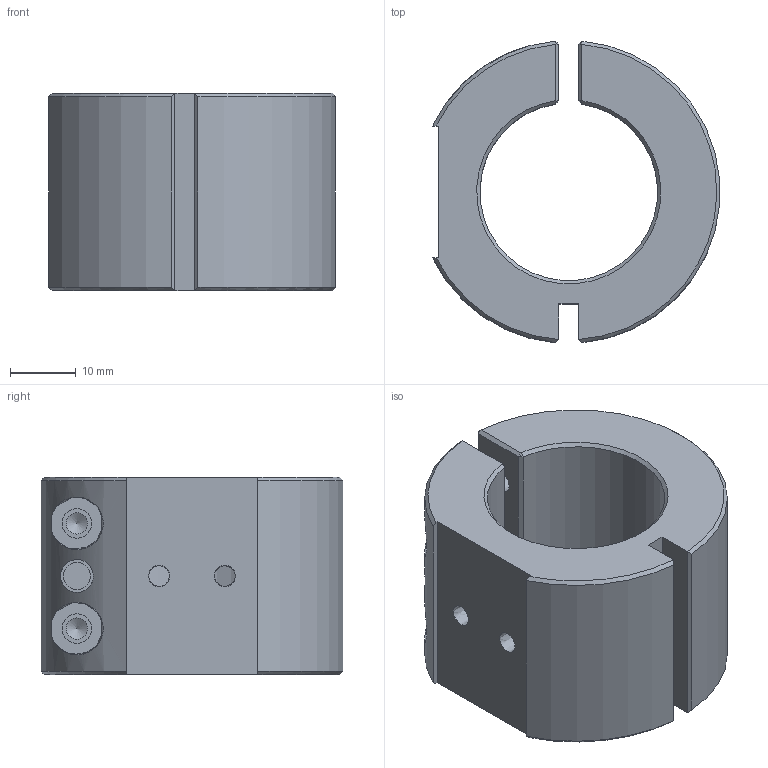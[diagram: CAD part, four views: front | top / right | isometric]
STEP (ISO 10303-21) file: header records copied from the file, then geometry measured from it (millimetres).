
FILE_DESCRIPTION((''),'2;1');
FILE_NAME('Z:\Systeme\Projekte\Interne_Projekte\ifd2400-halter\stp\Z3003391_01.stp','2008-12-19T10:22:17',('11000116'),(''),'Autodesk Inventor 2009','Autodesk Inventor 2009','');
FILE_SCHEMA(('AUTOMOTIVE_DESIGN { 1 0 10303 214 1 1 1 1 }'));
Length unit declared in the file: millimetre
Products named in the file (1): Z3003391_01
Bounding box: 43.62 x 45.83 x 30 mm (x, y, z)
Volume: 28377.9 mm3; surface area: 10291.4 mm2
Topology: 1 solids, 1 shells, 71 faces, 178 edges, 112 vertices
Faces by surface type: bspline 36, plane 21, cone 8, cylinder 6
Full cylindrical faces by diameter (mm): 4.134 x1, 5 x1
Entity records: 3340 total; most frequent: CARTESIAN_POINT 1929, ORIENTED_EDGE 320, DIRECTION 196, EDGE_CURVE 160, VERTEX_POINT 104, EDGE_LOOP 94, FACE_OUTER_BOUND 71, ADVANCED_FACE 71
